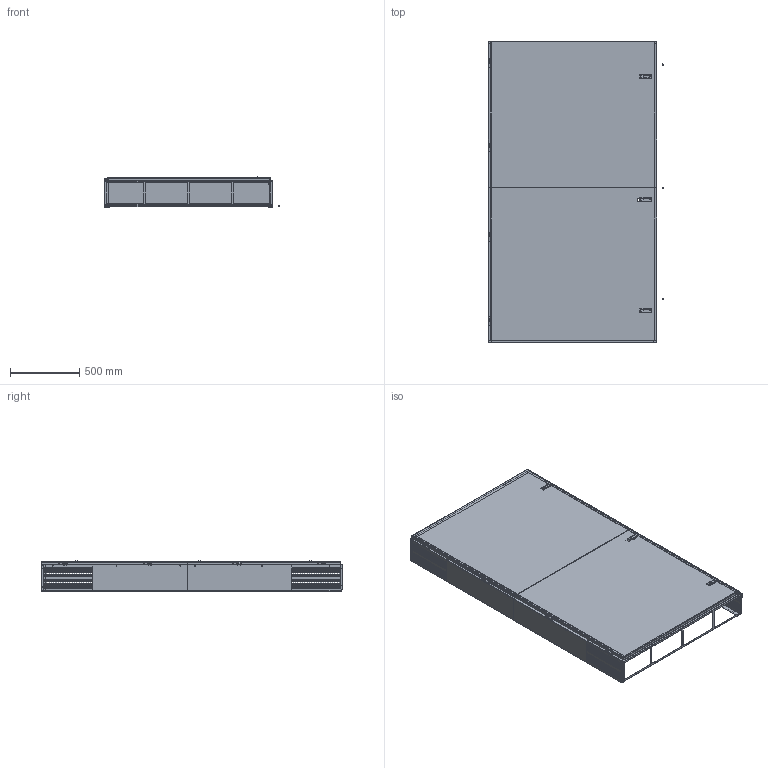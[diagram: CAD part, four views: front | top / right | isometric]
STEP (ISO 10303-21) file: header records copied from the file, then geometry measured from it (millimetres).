
FILE_DESCRIPTION (( 'STEP AP214' ), '1' );
FILE_NAME ('QRS5.STEP', '2016-07-28T13:48:20', ( 'BMC' ), ( 'Bard Manufacturing Co., Inc.' ), 'SwSTEP 2.0', 'SolidWorks 2016', '' );
FILE_SCHEMA (( 'AUTOMOTIVE_DESIGN' ));
Length unit declared in the file: inch
Products named in the file (33): 553-473; 500-588; 1171-048, non locking door latch; 100-588; NUT; 501-587; 1171-048f; 100-587; 1171-048e; 500-586; 1171-048d; 5021-1493_uncompressed; 1171-048c; 100-586; 1171-048b; 500-585; 1171-048a; 1012-048; 1012-150; 5021-1492_uncompressed; 5400-005 female hinge; 5400-005, male hinge; 5021-1447_uncompressed; 100-585; 152-473; 506-239; 5021-1102_uncompressed; QRS5; 106-239; 126-338; 553-474; 5021-1448_uncompressed; 152-474
Assembly tree (56 placements, depth 4):
  QRS5
    553-473
      152-473
      5021-1447_uncompressed
      5400-005 female hinge  x2
      1012-150  x4
      1171-048, non locking door latch
        1171-048a
        1171-048b
        1171-048c
        1171-048d
        1171-048e
        1171-048f
        NUT
    553-474
      152-474
      5400-005 female hinge  x2
      1171-048, non locking door latch  x2
        1171-048a
        1171-048b
        1171-048c
        1171-048d
        1171-048e
        1171-048f
        NUT
      1012-150  x4
      5021-1448_uncompressed
    126-338
    506-239
      106-239
      5021-1102_uncompressed
    500-585
      100-585
      5400-005, male hinge  x2
      5021-1492_uncompressed
      1012-048  x4
    500-586
      100-586
      5400-005, male hinge  x2
      5021-1493_uncompressed
      1012-048  x4
    501-587
      100-587
      5021-1492_uncompressed
    500-588
      100-588
      5021-1493_uncompressed
Bounding box: 1262.81 x 2171.71 x 217.65 mm (x, y, z)
Surface area: 15348349.5 mm2 (no closed solid volume)
Topology: 0 solids, 60 shells, 4366 faces, 10611 edges, 6421 vertices
Faces by surface type: cone 2090, plane 1827, cylinder 400, bspline 32, sphere 11, torus 6
Entity records: 71940 total; most frequent: CARTESIAN_POINT 14508, ORIENTED_EDGE 11600, DIRECTION 11334, EDGE_CURVE 5800, LINE 4592, VECTOR 4592, VERTEX_POINT 3641, AXIS2_PLACEMENT_3D 3371
